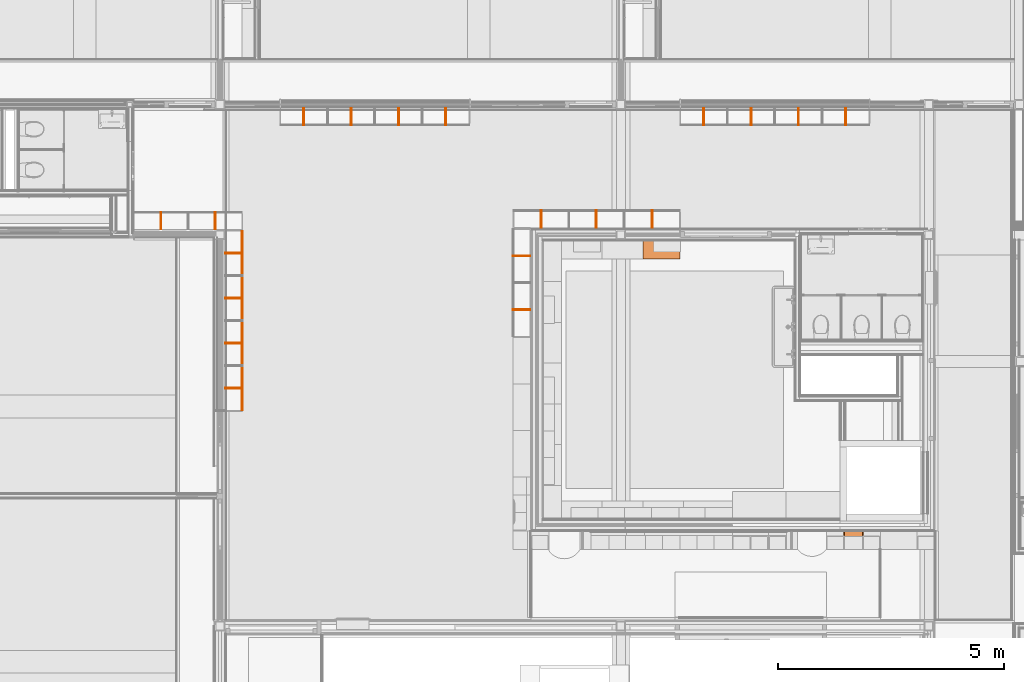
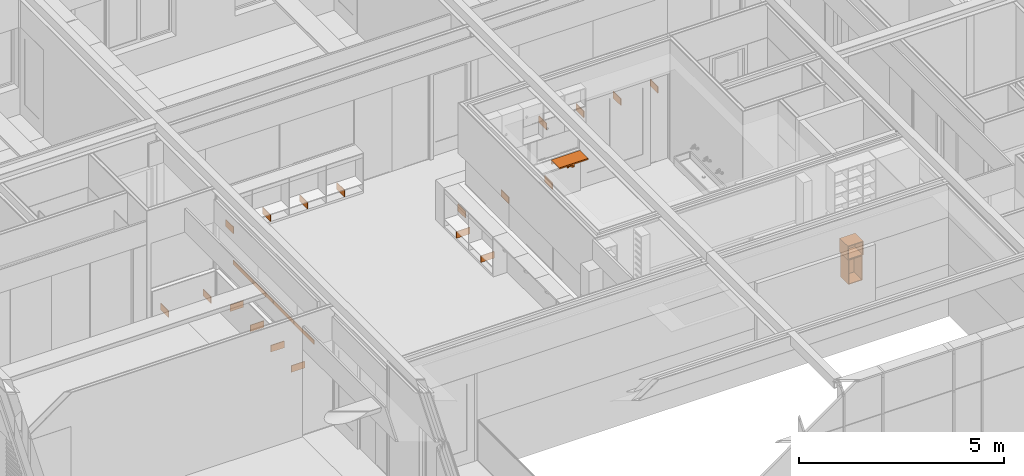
# One storey, part 137 of 137: 26 proxies.
"""IFC2X3 building model written with IfcOpenShell, lengths in millimetres."""

from ifc_helpers import new_model, entity, si_unit, converted_unit, derived_unit, money_unit, direction, frame, origin_with_axes, place, context, subcontext, project, spatial, faceted_brep, material, type_object, element, save


model = new_model("IFC2X3")

# Units and contexts
model_context = context("Model", 3, precision=0.01, world=origin_with_axes(), true_north=direction((0.0, 1.0)))
body_context = subcontext(model_context, "Body", "Model", "MODEL_VIEW")
ifc_project = project(units=[si_unit("LENGTHUNIT", "METRE", prefix="MILLI"), si_unit("AREAUNIT", "SQUARE_METRE"), si_unit("VOLUMEUNIT", "CUBIC_METRE"), converted_unit("PLANEANGLEUNIT", "DEGREE", entity("IfcPlaneAngleMeasure", 0.0174532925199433), si_unit("PLANEANGLEUNIT", "RADIAN"), dimensions=[0, 0, 0, 0, 0, 0, 0]), money_unit("EUR"), converted_unit("TIMEUNIT", "Year", entity("IfcTimeMeasure", 31556926.0), si_unit("TIMEUNIT", "SECOND"), dimensions=[0, 0, 1, 0, 0, 0, 0]), si_unit("MASSUNIT", "GRAM", prefix="KILO"), si_unit("THERMODYNAMICTEMPERATUREUNIT", "DEGREE_CELSIUS"), si_unit("LUMINOUSINTENSITYUNIT", "LUMEN"), si_unit("ENERGYUNIT", "JOULE", prefix="MEGA"), derived_unit("THERMALCONDUCTANCEUNIT", [(si_unit("POWERUNIT", "WATT"), 1), (si_unit("LENGTHUNIT", "METRE"), -1), (si_unit("THERMODYNAMICTEMPERATUREUNIT", "KELVIN"), -1)]), derived_unit("SPECIFICHEATCAPACITYUNIT", [(si_unit("ENERGYUNIT", "JOULE"), 1), (si_unit("MASSUNIT", "GRAM", prefix="KILO"), -1), (si_unit("THERMODYNAMICTEMPERATUREUNIT", "KELVIN"), -1)]), derived_unit("MASSDENSITYUNIT", [(si_unit("MASSUNIT", "GRAM", prefix="KILO"), 1), (si_unit("VOLUMEUNIT", "CUBIC_METRE"), -1)])], contexts=[model_context])

# Site, building, storey
site_placement = place(None, origin_with_axes())
site = spatial("IfcSite", under=ifc_project, at=site_placement, Name="Site", CompositionType="ELEMENT")
building_placement = place(site_placement, origin_with_axes())
building = spatial("IfcBuilding", under=site, at=building_placement, Name="Naam gebouw", CompositionType="ELEMENT")
storey_placement = place(building_placement, frame((0.0, 0.0, 3960.0), z_axis=(0.0, 0.0, 1.0), x_axis=(1.0, 0.0, 0.0)))
storey = spatial("IfcBuildingStorey", under=building, at=storey_placement, Name="1e verdieping", CompositionType="ELEMENT", Elevation=3960.0)

# Proxies
ifc_material = material(Name="Hout AFW")
building_element_proxy_type_1 = type_object("IfcBuildingElementProxyType", Name="Hout AFW 18", PredefinedType="NOTDEFINED")
proxy_1_placement = place(storey_placement, frame((9350.004002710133, 17559.9998112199, 1062.0), z_axis=(0.0, 0.0, 1.0), x_axis=(0.0, 1.0, 0.0)))
element("IfcBuildingElementProxy", 1, at=proxy_1_placement, inside=storey, type_object=building_element_proxy_type_1, material=ifc_material, Name="i HOUT_Wand-x", context=body_context, shape_type="Brep", body=[
    faceted_brep([(0.0, 18.00000000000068, 0.0), (974.9999984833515, 18.00000000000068, 0.0), (974.9999984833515, 0.0, 0.0), (0.0, 0.0, 0.0), (0.0, 18.00000000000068, 117.9999999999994), (974.9999984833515, 18.00000000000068, 117.9999999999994), (974.9999984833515, 0.0, 117.9999999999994), (0.0, 0.0, 117.9999999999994)], [[[0, 1, 2, 3]], [[4, 5, 1, 0]], [[2, 1, 5, 6]], [[3, 2, 6, 7]], [[4, 0, 3, 7]], [[7, 6, 5, 4]]]),
])
proxy_2_placement = place(storey_placement, frame((9349.95064996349, 16564.99981090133, 1062.0), z_axis=(0.0, 0.0, 1.0), x_axis=(0.0, 1.0, 0.0)))
element("IfcBuildingElementProxy", 2, at=proxy_2_placement, inside=storey, type_object=building_element_proxy_type_1, material=ifc_material, Name="i HOUT_Wand-x", context=body_context, shape_type="Brep", body=[
    faceted_brep([(0.0, 18.00000000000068, 0.0), (975.0000003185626, 18.00000000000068, 0.0), (975.0000003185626, 0.0, 0.0), (0.0, 0.0, 0.0), (0.0, 18.00000000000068, 117.9999999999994), (975.0000003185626, 18.00000000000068, 117.9999999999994), (975.0000003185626, 0.0, 117.9999999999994), (0.0, 0.0, 117.9999999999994)], [[[0, 1, 2, 3]], [[4, 5, 1, 0]], [[2, 1, 5, 6]], [[3, 2, 6, 7]], [[4, 0, 3, 7]], [[7, 6, 5, 4]]]),
])
proxy_3_placement = place(storey_placement, frame((9348.85466536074, 15569.9998112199, 1062.0), z_axis=(0.0, 0.0, 1.0), x_axis=(0.0, 1.0, 0.0)))
element("IfcBuildingElementProxy", 3, at=proxy_3_placement, inside=storey, type_object=building_element_proxy_type_1, material=ifc_material, Name="i HOUT_Wand-x", context=body_context, shape_type="Brep", body=[
    faceted_brep([(0.0, 18.00000000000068, 0.0), (974.9999996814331, 18.00000000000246, 0.0), (974.9999996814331, 0.0, 0.0), (0.0, 0.0, 0.0), (0.0, 18.00000000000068, 117.9999999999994), (974.9999996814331, 18.00000000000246, 117.9999999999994), (974.9999996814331, 0.0, 117.9999999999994), (0.0, 0.0, 117.9999999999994)], [[[0, 1, 2, 3]], [[4, 5, 1, 0]], [[2, 1, 5, 6]], [[3, 2, 6, 7]], [[4, 0, 3, 7]], [[7, 6, 5, 4]]]),
])
proxy_4_placement = place(storey_placement, frame((9350.004002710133, 18554.99980970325, 1062.0), z_axis=(0.0, 0.0, 1.0), x_axis=(0.0, 1.0, 0.0)))
element("IfcBuildingElementProxy", 4, at=proxy_4_placement, inside=storey, type_object=building_element_proxy_type_1, material=ifc_material, Name="i HOUT_Wand-x", context=body_context, shape_type="Brep", body=[
    faceted_brep([(0.0, 18.00000000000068, 0.0), (975.0000015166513, 18.00000000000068, 0.0), (975.0000015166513, 0.0, 0.0), (0.0, 0.0, 0.0), (0.0, 18.00000000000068, 117.9999999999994), (975.0000015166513, 18.00000000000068, 117.9999999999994), (975.0000015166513, 0.0, 117.9999999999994), (0.0, 0.0, 117.9999999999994)], [[[0, 1, 2, 3]], [[4, 5, 1, 0]], [[2, 1, 5, 6]], [[3, 2, 6, 7]], [[4, 0, 3, 7]], [[7, 6, 5, 4]]]),
])
building_element_proxy_type_2 = type_object("IfcBuildingElementProxyType", Name="Onderkast recht 26", PredefinedType="NOTDEFINED")
proxy_5_placement = place(storey_placement, frame((23054.99903999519, 12904.99778166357, 793.3333333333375), z_axis=(0.0, 0.0, 1.0), x_axis=(1.0, 0.0, 0.0)))
element("IfcBuildingElementProxy", 5, at=proxy_5_placement, inside=storey, type_object=building_element_proxy_type_2, Name="_Leeg", context=body_context, shape_type="Brep", body=[
    faceted_brep([(-20.0, -400.0000000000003, 0.0), (-20.0, -400.0000000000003, 20.0), (-420.0000000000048, -400.0000000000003, 20.0), (-420.0000000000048, -400.0000000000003, 0.0), (-20.0, 0.0, 0.0), (-20.0, 0.0, 20.0), (-420.0000000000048, 0.0, 20.0), (-420.0000000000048, 0.0, 0.0)], [[[0, 1, 2, 3]], [[4, 5, 1, 0]], [[1, 5, 6, 2]], [[3, 2, 6, 7]], [[0, 3, 7, 4]], [[7, 6, 5, 4]]]),
    faceted_brep([(-20.0, -400.0000000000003, 386.6666666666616), (-20.0, -400.0000000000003, 406.6666666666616), (-420.0000000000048, -400.0000000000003, 406.6666666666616), (-420.0000000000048, -400.0000000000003, 386.6666666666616), (-20.0, 0.0, 386.6666666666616), (-20.0, 0.0, 406.6666666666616), (-420.0000000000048, 0.0, 406.6666666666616), (-420.0000000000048, 0.0, 386.6666666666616)], [[[0, 1, 2, 3]], [[4, 5, 1, 0]], [[1, 5, 6, 2]], [[3, 2, 6, 7]], [[0, 3, 7, 4]], [[7, 6, 5, 4]]]),
    faceted_brep([(0.0, 0.0, 0.0), (0.0, 0.0, 406.6666666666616), (0.0, -400.0000000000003, 406.6666666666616), (0.0, -400.0000000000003, 0.0), (-20.0, 0.0, 0.0), (-20.0, 0.0, 406.6666666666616), (-20.0, -400.0000000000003, 406.6666666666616), (-20.0, -400.0000000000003, 0.0)], [[[0, 1, 2, 3]], [[4, 5, 1, 0]], [[1, 5, 6, 2]], [[3, 2, 6, 7]], [[0, 3, 7, 4]], [[7, 6, 5, 4]]]),
    faceted_brep([(-440.0000000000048, -400.0000000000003, 0.0), (-440.0000000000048, -400.0000000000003, 406.6666666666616), (-440.0000000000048, 0.0, 406.6666666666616), (-440.0000000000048, 0.0, 0.0), (-420.0000000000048, -400.0000000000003, 0.0), (-420.0000000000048, -400.0000000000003, 406.6666666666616), (-420.0000000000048, 0.0, 406.6666666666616), (-420.0000000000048, 0.0, 0.0)], [[[0, 1, 2, 3]], [[4, 5, 1, 0]], [[1, 5, 6, 2]], [[3, 2, 6, 7]], [[0, 3, 7, 4]], [[7, 6, 5, 4]]]),
    faceted_brep([(-420.0000000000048, -10.0, 20.0), (-420.0000000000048, -10.0, 386.6666666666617), (-20.00000000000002, -10.0, 386.6666666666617), (-20.00000000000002, -10.0, 20.0), (-420.0000000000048, -20.0, 20.0), (-420.0000000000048, -20.0, 386.6666666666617), (-20.00000000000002, -20.0, 386.6666666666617), (-20.00000000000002, -20.0, 20.0)], [[[0, 1, 2, 3]], [[4, 5, 1, 0]], [[1, 5, 6, 2]], [[3, 2, 6, 7]], [[0, 3, 7, 4]], [[7, 6, 5, 4]]]),
])
proxy_6_placement = place(storey_placement, frame((23034.99903999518, 12904.99778166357, 49.99999999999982), z_axis=(0.0, 0.0, 1.0), x_axis=(1.0, 0.0, 0.0)))
element("IfcBuildingElementProxy", 6, at=proxy_6_placement, inside=storey, type_object=building_element_proxy_type_2, Name="_Leeg", context=body_context, shape_type="Brep", body=[
    faceted_brep([(-20.0, -400.0000000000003, 0.0), (-20.0, -400.0000000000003, 20.0), (-379.9999999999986, -400.0000000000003, 20.0), (-379.9999999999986, -400.0000000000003, 0.0), (-20.0, 0.0, 0.0), (-20.0, 0.0, 20.0), (-379.9999999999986, 0.0, 20.0), (-379.9999999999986, 0.0, 0.0)], [[[0, 1, 2, 3]], [[4, 5, 1, 0]], [[1, 5, 6, 2]], [[3, 2, 6, 7]], [[0, 3, 7, 4]], [[7, 6, 5, 4]]]),
    faceted_brep([(-20.0, -400.0000000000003, 723.3333333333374), (-20.0, -400.0000000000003, 743.3333333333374), (-379.9999999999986, -400.0000000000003, 743.3333333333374), (-379.9999999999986, -400.0000000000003, 723.3333333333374), (-20.0, 0.0, 723.3333333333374), (-20.0, 0.0, 743.3333333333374), (-379.9999999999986, 0.0, 743.3333333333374), (-379.9999999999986, 0.0, 723.3333333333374)], [[[0, 1, 2, 3]], [[4, 5, 1, 0]], [[1, 5, 6, 2]], [[3, 2, 6, 7]], [[0, 3, 7, 4]], [[7, 6, 5, 4]]]),
    faceted_brep([(0.0, 0.0, 0.0), (0.0, 0.0, 743.3333333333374), (0.0, -400.0000000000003, 743.3333333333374), (0.0, -400.0000000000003, 0.0), (-20.0, 0.0, 0.0), (-20.0, 0.0, 743.3333333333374), (-20.0, -400.0000000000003, 743.3333333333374), (-20.0, -400.0000000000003, 0.0)], [[[0, 1, 2, 3]], [[4, 5, 1, 0]], [[1, 5, 6, 2]], [[3, 2, 6, 7]], [[0, 3, 7, 4]], [[7, 6, 5, 4]]]),
    faceted_brep([(-399.9999999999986, -400.0000000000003, 0.0), (-399.9999999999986, -400.0000000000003, 743.3333333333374), (-399.9999999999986, 0.0, 743.3333333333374), (-399.9999999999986, 0.0, 0.0), (-379.9999999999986, -400.0000000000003, 0.0), (-379.9999999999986, -400.0000000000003, 743.3333333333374), (-379.9999999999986, 0.0, 743.3333333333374), (-379.9999999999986, 0.0, 0.0)], [[[0, 1, 2, 3]], [[4, 5, 1, 0]], [[1, 5, 6, 2]], [[3, 2, 6, 7]], [[0, 3, 7, 4]], [[7, 6, 5, 4]]]),
    faceted_brep([(-379.9999999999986, -10.0, 20.0), (-379.9999999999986, -10.0, 723.3333333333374), (-20.00000000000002, -10.0, 723.3333333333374), (-20.00000000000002, -10.0, 20.0), (-379.9999999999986, -20.0, 20.0), (-379.9999999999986, -20.0, 723.3333333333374), (-20.00000000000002, -20.0, 723.3333333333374), (-20.00000000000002, -20.0, 20.0)], [[[0, 1, 2, 3]], [[4, 5, 1, 0]], [[1, 5, 6, 2]], [[3, 2, 6, 7]], [[0, 3, 7, 4]], [[7, 6, 5, 4]]]),
])
building_element_proxy_type_3 = type_object("IfcBuildingElementProxyType", Name="Hout AFW 20", PredefinedType="NOTDEFINED")
proxy_7_placement = place(storey_placement, frame((15314.99945671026, 17789.9998112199, 70.00000000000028), z_axis=(0.0, 0.0, 1.0), x_axis=(1.0, 0.0, 0.0)))
element("IfcBuildingElementProxy", 7, at=proxy_7_placement, inside=storey, type_object=building_element_proxy_type_3, material=ifc_material, Name="i HOUT_Wand-x", context=body_context, shape_type="Brep", body=[
    faceted_brep([(0.0, 10.00000000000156, 0.0), (380.006513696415, 10.00000000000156, 0.0), (380.006513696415, -10.00000000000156, 0.0), (0.0, -10.00000000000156, 0.0), (0.0, 10.00000000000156, 197.9999999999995), (380.006513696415, 10.00000000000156, 197.9999999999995), (380.006513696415, -10.00000000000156, 197.9999999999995), (0.0, -10.00000000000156, 197.9999999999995)], [[[0, 1, 2, 3]], [[4, 5, 1, 0]], [[2, 1, 5, 6]], [[3, 2, 6, 7]], [[4, 0, 3, 7]], [[7, 6, 5, 4]]]),
])
proxy_8_placement = place(storey_placement, frame((15939.99945952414, 19984.99981121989, 70.00000000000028), z_axis=(0.0, 0.0, 1.0), x_axis=(0.0, -1.0, 0.0)))
element("IfcBuildingElementProxy", 8, at=proxy_8_placement, inside=storey, type_object=building_element_proxy_type_3, material=ifc_material, Name="i HOUT_Wand-x", context=body_context, shape_type="Brep", body=[
    faceted_brep([(0.0, 9.999999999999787, 0.0), (380.006513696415, 9.999999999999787, 0.0), (380.006513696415, -9.999999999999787, 0.0), (0.0, -9.999999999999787, 0.0), (0.0, 9.999999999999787, 197.9999999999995), (380.006513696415, 9.999999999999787, 197.9999999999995), (380.006513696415, -9.999999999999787, 197.9999999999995), (0.0, -9.999999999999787, 197.9999999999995)], [[[0, 1, 2, 3]], [[4, 5, 1, 0]], [[2, 1, 5, 6]], [[3, 2, 6, 7]], [[4, 0, 3, 7]], [[7, 6, 5, 4]]]),
])
for number, where, z_axis, x_axis, name in (
    (9, (15314.99945671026, 18979.9998112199, 70.00000000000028), (0.0, 0.0, 1.0), (1.0, 0.0, 0.0), "i HOUT_Wand-x"),
    (10, (17159.99945737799, 19984.99981121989, 70.00000000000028), (0.0, 0.0, 1.0), (0.0, -1.0, 0.0), "i HOUT_Wand-x"),
    (11, (18389.99945704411, 19984.99981121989, 70.00000000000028), (0.0, 0.0, 1.0), (0.0, -1.0, 0.0), "i HOUT_Wand-x"),
):
    element("IfcBuildingElementProxy", number, at=place(storey_placement, frame(where, z_axis=z_axis, x_axis=x_axis)), inside=storey, type_object=building_element_proxy_type_3, material=ifc_material, Name=name, context=body_context, shape_type="Brep", body=[
        faceted_brep([(0.0, 10.00000000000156, 0.0), (380.006513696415, 10.00000000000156, 0.0), (380.006513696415, -10.00000000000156, 0.0), (0.0, -10.00000000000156, 0.0), (0.0, 10.00000000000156, 197.9999999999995), (380.006513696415, 10.00000000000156, 197.9999999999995), (380.006513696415, -10.00000000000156, 197.9999999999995), (0.0, -10.00000000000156, 197.9999999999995)], [[[0, 1, 2, 3]], [[4, 5, 1, 0]], [[2, 1, 5, 6]], [[3, 2, 6, 7]], [[4, 0, 3, 7]], [[7, 6, 5, 4]]]),
    ])
proxy_9_placement = place(storey_placement, frame((7547.500015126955, 19569.85210869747, 70.00000000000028), z_axis=(0.0, 0.0, 1.0), x_axis=(0.0, 1.0, 0.0)))
element("IfcBuildingElementProxy", 12, at=proxy_9_placement, inside=storey, type_object=building_element_proxy_type_3, material=ifc_material, Name="i HOUT_Wand-x", context=body_context, shape_type="Brep", body=[
    faceted_brep([(0.0, 9.999999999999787, 0.0), (380.006513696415, 10.00000000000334, 0.0), (380.006513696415, -9.999999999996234, 0.0), (0.0, -9.999999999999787, 0.0), (0.0, 9.999999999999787, 197.9999999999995), (380.006513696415, 10.00000000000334, 197.9999999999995), (380.006513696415, -9.999999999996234, 197.9999999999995), (0.0, -9.999999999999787, 197.9999999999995)], [[[0, 1, 2, 3]], [[4, 5, 1, 0]], [[2, 1, 5, 6]], [[3, 2, 6, 7]], [[4, 0, 3, 7]], [[7, 6, 5, 4]]]),
])
for number, where, z_axis, x_axis, name in (
    (13, (22667.47857350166, 22242.62391659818, 70.00000000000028), (0.0, 0.0, 1.0), (0.0, -1.0, 0.0), "i HOUT_Wand-x"),
    (14, (21622.48676009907, 22242.62391659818, 70.00000000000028), (0.0, 0.0, 1.0), (0.0, -1.0, 0.0), "i HOUT_Wand-x"),
    (15, (19532.49903999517, 22242.62391659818, 70.00000000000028), (0.0, 0.0, 1.0), (0.0, -1.0, 0.0), "i HOUT_Wand-x"),
):
    element("IfcBuildingElementProxy", number, at=place(storey_placement, frame(where, z_axis=z_axis, x_axis=x_axis)), inside=storey, type_object=building_element_proxy_type_3, material=ifc_material, Name=name, context=body_context, shape_type="Brep", body=[
        faceted_brep([(0.0, 10.00000000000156, 0.0), (380.006513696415, 10.00000000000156, 0.0), (380.006513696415, -10.00000000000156, 0.0), (0.0, -10.00000000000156, 0.0), (0.0, 10.00000000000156, 197.9999999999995), (380.006513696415, 10.00000000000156, 197.9999999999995), (380.006513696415, -10.00000000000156, 197.9999999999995), (0.0, -10.00000000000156, 197.9999999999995)], [[[0, 1, 2, 3]], [[4, 5, 1, 0]], [[2, 1, 5, 6]], [[3, 2, 6, 7]], [[4, 0, 3, 7]], [[7, 6, 5, 4]]]),
    ])
for number, where, z_axis, x_axis, name in (
    (16, (13837.4795335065, 22242.62391659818, 70.00000000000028), (0.0, 0.0, 1.0), (0.0, -1.0, 0.0), "i HOUT_Wand-x"),
    (17, (12792.48772010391, 22242.62391659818, 70.00000000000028), (0.0, 0.0, 1.0), (0.0, -1.0, 0.0), "i HOUT_Wand-x"),
):
    element("IfcBuildingElementProxy", number, at=place(storey_placement, frame(where, z_axis=z_axis, x_axis=x_axis)), inside=storey, type_object=building_element_proxy_type_3, material=ifc_material, Name=name, context=body_context, shape_type="Brep", body=[
        faceted_brep([(0.0, 9.999999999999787, 0.0), (380.006513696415, 9.999999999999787, 0.0), (380.006513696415, -9.999999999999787, 0.0), (0.0, -9.999999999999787, 0.0), (0.0, 9.999999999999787, 197.9999999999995), (380.006513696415, 9.999999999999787, 197.9999999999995), (380.006513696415, -9.999999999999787, 197.9999999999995), (0.0, -9.999999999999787, 197.9999999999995)], [[[0, 1, 2, 3]], [[4, 5, 1, 0]], [[2, 1, 5, 6]], [[3, 2, 6, 7]], [[4, 0, 3, 7]], [[7, 6, 5, 4]]]),
    ])
proxy_10_placement = place(storey_placement, frame((8742.5, 19569.85210869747, 70.00000000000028), z_axis=(0.0, 0.0, 1.0), x_axis=(0.0, 1.0, 0.0)))
element("IfcBuildingElementProxy", 18, at=proxy_10_placement, inside=storey, type_object=building_element_proxy_type_3, material=ifc_material, Name="i HOUT_Wand-x", context=body_context, shape_type="Brep", body=[
    faceted_brep([(0.0, 9.999999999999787, 0.0), (380.006513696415, 10.00000000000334, 0.0), (380.006513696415, -9.999999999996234, 0.0), (0.0, -9.999999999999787, 0.0), (0.0, 9.999999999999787, 197.9999999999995), (380.006513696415, 10.00000000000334, 197.9999999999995), (380.006513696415, -9.999999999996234, 197.9999999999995), (0.0, -9.999999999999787, 197.9999999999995)], [[[0, 1, 2, 3]], [[4, 5, 1, 0]], [[2, 1, 5, 6]], [[3, 2, 6, 7]], [[4, 0, 3, 7]], [[7, 6, 5, 4]]]),
])
for number, where, z_axis, x_axis, name in (
    (19, (10702.50000000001, 22242.62391659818, 70.00000000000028), (0.0, 0.0, 1.0), (0.0, -1.0, 0.0), "i HOUT_Wand-x"),
    (20, (11747.49590670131, 22242.62391659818, 70.00000000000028), (0.0, 0.0, 1.0), (0.0, -1.0, 0.0), "i HOUT_Wand-x"),
):
    element("IfcBuildingElementProxy", number, at=place(storey_placement, frame(where, z_axis=z_axis, x_axis=x_axis)), inside=storey, type_object=building_element_proxy_type_3, material=ifc_material, Name=name, context=body_context, shape_type="Brep", body=[
        faceted_brep([(0.0, 9.999999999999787, 0.0), (380.006513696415, 9.999999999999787, 0.0), (380.006513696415, -9.999999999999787, 0.0), (0.0, -9.999999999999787, 0.0), (0.0, 9.999999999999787, 197.9999999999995), (380.006513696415, 9.999999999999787, 197.9999999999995), (380.006513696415, -9.999999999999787, 197.9999999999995), (0.0, -9.999999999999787, 197.9999999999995)], [[[0, 1, 2, 3]], [[4, 5, 1, 0]], [[2, 1, 5, 6]], [[3, 2, 6, 7]], [[4, 0, 3, 7]], [[7, 6, 5, 4]]]),
    ])
proxy_11_placement = place(storey_placement, frame((20577.49494669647, 22242.62391659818, 70.00000000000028), z_axis=(0.0, 0.0, 1.0), x_axis=(0.0, -1.0, 0.0)))
element("IfcBuildingElementProxy", 21, at=proxy_11_placement, inside=storey, type_object=building_element_proxy_type_3, material=ifc_material, Name="i HOUT_Wand-x", context=body_context, shape_type="Brep", body=[
    faceted_brep([(0.0, 10.00000000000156, 0.0), (380.006513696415, 10.00000000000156, 0.0), (380.006513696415, -10.00000000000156, 0.0), (0.0, -10.00000000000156, 0.0), (0.0, 10.00000000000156, 197.9999999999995), (380.006513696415, 10.00000000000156, 197.9999999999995), (380.006513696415, -10.00000000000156, 197.9999999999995), (0.0, -10.00000000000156, 197.9999999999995)], [[[0, 1, 2, 3]], [[4, 5, 1, 0]], [[2, 1, 5, 6]], [[3, 2, 6, 7]], [[4, 0, 3, 7]], [[7, 6, 5, 4]]]),
])
for number, where, z_axis, x_axis, name in (
    (22, (8969.852297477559, 17052.49981090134, 70.00000000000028), (0.0, 0.0, 1.0), (1.0, 0.0, 0.0), "i HOUT_Wand-x"),
    (23, (8969.852297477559, 18047.4998112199, 70.00000000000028), (0.0, 0.0, 1.0), (1.0, 0.0, 0.0), "i HOUT_Wand-x"),
    (24, (8969.852297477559, 19042.49980970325, 70.00000000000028), (0.0, 0.0, 1.0), (1.0, 0.0, 0.0), "i HOUT_Wand-x"),
):
    element("IfcBuildingElementProxy", number, at=place(storey_placement, frame(where, z_axis=z_axis, x_axis=x_axis)), inside=storey, type_object=building_element_proxy_type_3, material=ifc_material, Name=name, context=body_context, shape_type="Brep", body=[
        faceted_brep([(0.0, 10.00000000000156, 0.0), (380.006513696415, 10.00000000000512, 0.0), (380.006513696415, -9.99999999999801, 0.0), (0.0, -10.00000000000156, 0.0), (0.0, 10.00000000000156, 197.9999999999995), (380.006513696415, 10.00000000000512, 197.9999999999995), (380.006513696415, -9.99999999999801, 197.9999999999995), (0.0, -10.00000000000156, 197.9999999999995)], [[[0, 1, 2, 3]], [[4, 5, 1, 0]], [[2, 1, 5, 6]], [[3, 2, 6, 7]], [[4, 0, 3, 7]], [[7, 6, 5, 4]]]),
    ])
proxy_12_placement = place(storey_placement, frame((8969.852297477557, 16057.4998112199, 70.00000000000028), z_axis=(0.0, 0.0, 1.0), x_axis=(1.0, 0.0, 0.0)))
element("IfcBuildingElementProxy", 25, at=proxy_12_placement, inside=storey, type_object=building_element_proxy_type_3, material=ifc_material, Name="i HOUT_Wand-x", context=body_context, shape_type="Brep", body=[
    faceted_brep([(0.0, 10.00000000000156, 0.0), (380.006513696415, 10.00000000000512, 0.0), (380.0065136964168, -9.99999999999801, 0.0), (0.0, -10.00000000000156, 0.0), (0.0, 10.00000000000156, 197.9999999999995), (380.006513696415, 10.00000000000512, 197.9999999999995), (380.0065136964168, -9.99999999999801, 197.9999999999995), (0.0, -10.00000000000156, 197.9999999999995)], [[[0, 1, 2, 3]], [[4, 5, 1, 0]], [[2, 1, 5, 6]], [[3, 2, 6, 7]], [[4, 0, 3, 7]], [[7, 6, 5, 4]]]),
])
building_element_proxy_type_4 = type_object("IfcBuildingElementProxyType", Name="Klaptafel wand 26", PredefinedType="NOTDEFINED")
proxy_13_placement = place(storey_placement, frame((18185.0212215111, 18915.11959389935, 459.9999999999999), z_axis=(0.0, 0.0, 1.0), x_axis=(0.9999999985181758, 5.443940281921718e-05, 0.0)))
element("IfcBuildingElementProxy", 26, at=proxy_13_placement, inside=storey, type_object=building_element_proxy_type_4, Name="_Leeg", context=body_context, shape_type="Brep", body=[
    faceted_brep([(427.6224572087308, 0.0, 620.0000000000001), (387.6224572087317, 0.0, 620.0000000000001), (387.6224572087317, 359.8358518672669, 620.0000000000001), (427.6224572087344, 359.8358518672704, 620.0000000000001), (427.6224572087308, 0.0, 700.0000000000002), (387.6224572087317, 0.0, 700.0000000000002), (387.6224572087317, 359.8358518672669, 700.0000000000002), (427.6224572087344, 359.8358518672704, 700.0000000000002)], [[[0, 1, 2, 3]], [[1, 0, 4, 5]], [[2, 1, 5, 6]], [[3, 2, 6, 7]], [[0, 3, 7, 4]], [[5, 4, 7, 6]]]),
    faceted_brep([(427.6224572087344, 279.8358518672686, 420.0820740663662), (387.6224572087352, 279.835851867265, 420.0820740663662), (387.6224572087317, 359.8358518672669, 420.0820740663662), (427.6224572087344, 359.8358518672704, 420.0820740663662), (427.6224572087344, 279.8358518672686, 620.0000000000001), (387.6224572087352, 279.835851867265, 620.0000000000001), (387.6224572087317, 359.8358518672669, 620.0000000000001), (427.6224572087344, 359.8358518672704, 620.0000000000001)], [[[0, 1, 2, 3]], [[1, 0, 4, 5]], [[2, 1, 5, 6]], [[3, 2, 6, 7]], [[0, 3, 7, 4]], [[5, 4, 7, 6]]]),
    faceted_brep([(387.6224572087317, 0.0, 620.0000000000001), (387.6224572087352, 279.835851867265, 464.5285459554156), (427.6224572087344, 279.8358518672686, 464.5285459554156), (427.6224572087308, 0.0, 620.0000000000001), (387.6224572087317, 164.7243402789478, 620.0000000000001), (387.6224572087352, 279.835851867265, 556.0462429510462), (427.6224572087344, 279.8358518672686, 556.0462429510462), (427.6224572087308, 164.7243402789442, 620.0000000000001)], [[[0, 1, 2, 3]], [[0, 4, 5, 1]], [[1, 5, 6, 2]], [[3, 2, 6, 7]], [[4, 0, 3, 7]], [[5, 4, 7, 6]]]),
    faceted_brep([(815.2449144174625, 0.0, 700.0000000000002), (0.0, 0.0, 700.0000000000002), (0.0, 319.8358518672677, 700.0000000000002), (815.244914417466, 319.8358518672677, 700.0000000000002), (815.2449144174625, 0.0, 740.0000000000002), (0.0, 0.0, 740.0000000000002), (0.0, 319.8358518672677, 740.0000000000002), (815.244914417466, 319.8358518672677, 740.0000000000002)], [[[0, 1, 2, 3]], [[1, 0, 4, 5]], [[2, 1, 5, 6]], [[3, 2, 6, 7]], [[0, 3, 7, 4]], [[5, 4, 7, 6]]]),
    faceted_brep([(815.244914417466, 319.8358518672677, 700.0000000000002), (0.0, 319.8358518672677, 700.0000000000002), (0.0, 399.835851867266, 700.0000000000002), (815.244914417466, 399.835851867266, 700.0000000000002), (815.244914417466, 319.8358518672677, 740.0000000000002), (0.0, 319.8358518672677, 740.0000000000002), (0.0, 399.835851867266, 740.0000000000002), (815.244914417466, 399.835851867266, 740.0000000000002)], [[[0, 1, 2, 3]], [[1, 0, 4, 5]], [[2, 1, 5, 6]], [[3, 2, 6, 7]], [[0, 3, 7, 4]], [[5, 4, 7, 6]]]),
    faceted_brep([(815.244914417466, 359.8358518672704, 620.0000000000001), (0.0, 359.8358518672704, 620.0000000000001), (0.0, 399.835851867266, 620.0000000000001), (815.244914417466, 399.835851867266, 620.0000000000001), (815.244914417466, 359.8358518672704, 700.0000000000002), (0.0, 359.8358518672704, 700.0000000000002), (0.0, 399.835851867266, 700.0000000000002), (815.244914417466, 399.835851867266, 700.0000000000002)], [[[0, 1, 2, 3]], [[1, 0, 4, 5]], [[2, 1, 5, 6]], [[3, 2, 6, 7]], [[0, 3, 7, 4]], [[5, 4, 7, 6]]]),
    faceted_brep([(447.622457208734, 359.8358518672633, 420.0820740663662), (367.6224572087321, 359.8358518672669, 420.0820740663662), (367.6224572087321, 399.835851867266, 420.0820740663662), (447.622457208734, 399.8358518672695, 420.0820740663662), (447.622457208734, 359.8358518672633, 620.0000000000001), (367.6224572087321, 359.8358518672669, 620.0000000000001), (367.6224572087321, 399.835851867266, 620.0000000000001), (447.622457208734, 399.8358518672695, 620.0000000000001)], [[[0, 1, 2, 3]], [[1, 0, 4, 5]], [[2, 1, 5, 6]], [[3, 2, 6, 7]], [[0, 3, 7, 4]], [[5, 4, 7, 6]]]),
])

save(model, "model.ifc")
